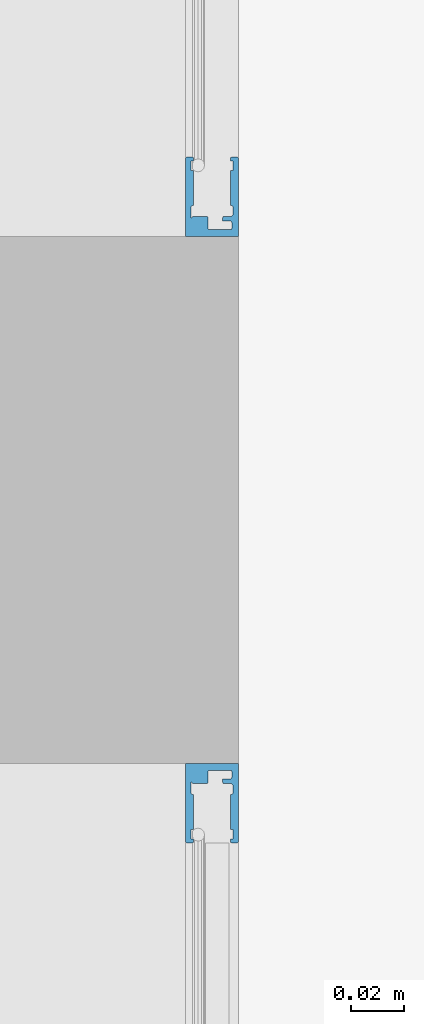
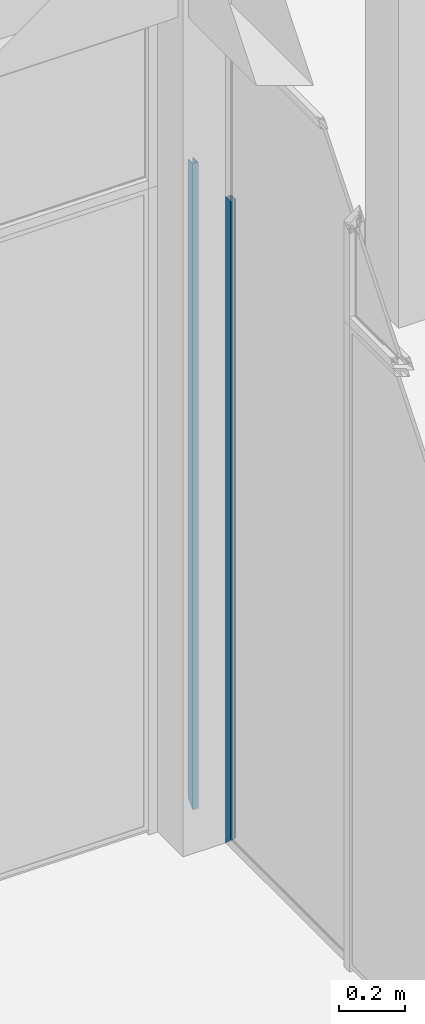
# One storey, part 92 of 387: 2 building element parts, 4 elements without a shape of their own.
"""IFC2X3 building model written with IfcOpenShell, lengths in millimetres."""

import ifcopenshell
import ifcopenshell.guid

model = None  # the IFC model being written
_history = None  # IfcOwnerHistory: only IFC2X3 demands one
_inside = {}  # id of a spatial element -> (the spatial element, [elements in it])
_under = {}  # id of a project, library or spatial element -> (it, [spatial elements below it])
_declared = {}  # id of a project -> (the project, [libraries it declares])
_typed = {}  # id of a type object -> (the type object, [elements of that type])
_made_of = {}  # id of a material, layer set ... -> (it, [elements and type objects made of it])


def new_model(schema):
    """Start an empty IFC model of exactly this schema.

    Asked for "IFC4X3", IfcOpenShell would pick the latest addendum, in which some entities
    have other attributes; the version numbers below select the first issue.
    IFC2X3 requires an IfcOwnerHistory on every rooted entity: one is made here for all.
    """
    global model, _history
    if schema == "IFC4X3":
        model = ifcopenshell.file(schema_version=(4, 3, 0, 0))
    else:
        model = ifcopenshell.file(schema=schema)
    _inside.clear()
    _under.clear()
    _declared.clear()
    _typed.clear()
    _made_of.clear()
    _history = None
    if model.schema == "IFC2X3":
        org = make("IfcOrganization", Name="unknown")
        user = make(
            "IfcPersonAndOrganization",
            ThePerson=make("IfcPerson", FamilyName="unknown"),
            TheOrganization=org,
        )
        app = make(
            "IfcApplication",
            ApplicationDeveloper=org,
            Version="unknown",
            ApplicationFullName="unknown",
            ApplicationIdentifier="unknown",
        )
        _history = make(
            "IfcOwnerHistory",
            OwningUser=user,
            OwningApplication=app,
            ChangeAction="ADDED",
            CreationDate=0,
        )
    return model


def make(cls, **values):
    """One entity of the class cls with the attributes given. An attribute that is None is left unset."""
    return model.create_entity(
        cls, **{name: value for name, value in values.items() if value is not None}
    )


def entity(cls, *values):
    """Any entity or typed value of the class cls, its attributes in the order of the schema. None: left unset."""
    e = model.create_entity(cls)
    for i, value in enumerate(values):
        if value is not None:
            e[i] = value
    return e


def rooted(cls, **values):
    """An entity with a GlobalId (a new one), such as an element, a storey or a relation."""
    return make(cls, GlobalId=ifcopenshell.guid.new(), OwnerHistory=_history, **values)


def si_unit(unit_type, name, prefix=None):
    """IfcSIUnit, for example si_unit("LENGTHUNIT", "METRE", prefix="MILLI")."""
    return make("IfcSIUnit", UnitType=unit_type, Prefix=prefix, Name=name)


def converted_unit(unit_type, name, factor, base, dimensions=None, offset=None):
    """IfcConversionBasedUnit, such as the inch: factor (a typed value) times the base unit."""
    return make(
        "IfcConversionBasedUnit"
        if offset is None
        else "IfcConversionBasedUnitWithOffset",
        ConversionOffset=offset,
        Dimensions=None
        if dimensions is None
        else entity("IfcDimensionalExponents", *dimensions),
        UnitType=unit_type,
        Name=name,
        ConversionFactor=make(
            "IfcMeasureWithUnit", ValueComponent=factor, UnitComponent=base
        ),
    )


def derived_unit(unit_type, elements):
    """IfcDerivedUnit: a product of units, each with its exponent."""
    return make(
        "IfcDerivedUnit",
        Elements=[
            make("IfcDerivedUnitElement", Unit=unit, Exponent=power)
            for unit, power in elements
        ],
        UnitType=unit_type,
    )


def money_unit(currency):
    """IfcMonetaryUnit."""
    return make("IfcMonetaryUnit", Currency=currency)


def assignment(units):
    """IfcUnitAssignment: the units of a project."""
    return None if units is None else make("IfcUnitAssignment", Units=units)


def point(xyz):
    """IfcCartesianPoint."""
    return None if xyz is None else make("IfcCartesianPoint", Coordinates=xyz)


def direction(xyz):
    """IfcDirection."""
    return None if xyz is None else make("IfcDirection", DirectionRatios=xyz)


def frame(location, z_axis=None, x_axis=None):
    """IfcAxis2Placement3D, a coordinate frame: its origin and axes. An axis left out is left unset."""
    return make(
        "IfcAxis2Placement3D",
        Location=point(location),
        Axis=direction(z_axis),
        RefDirection=direction(x_axis),
    )


def origin_with_axes():
    """The frame at (0, 0, 0) with the z axis (0, 0, 1) and the x axis (1, 0, 0) written out."""
    return frame((0.0, 0.0, 0.0), z_axis=(0.0, 0.0, 1.0), x_axis=(1.0, 0.0, 0.0))


def place(relative_to, where):
    """IfcLocalPlacement: puts the frame where relative to a parent placement (None: the world)."""
    return make(
        "IfcLocalPlacement", PlacementRelTo=relative_to, RelativePlacement=where
    )


def context(
    kind, dimensions, precision=None, world=None, true_north=None, identifier=None
):
    """IfcGeometricRepresentationContext, for example the 3D "Model" context."""
    return make(
        "IfcGeometricRepresentationContext",
        ContextIdentifier=identifier,
        ContextType=kind,
        CoordinateSpaceDimension=dimensions,
        Precision=precision,
        WorldCoordinateSystem=world,
        TrueNorth=true_north,
    )


def subcontext(parent, identifier, kind, view, scale=None):
    """IfcGeometricRepresentationSubContext, for example "Body" below "Model"."""
    return make(
        "IfcGeometricRepresentationSubContext",
        ContextIdentifier=identifier,
        ContextType=kind,
        ParentContext=parent,
        TargetScale=scale,
        TargetView=view,
    )


def project(units=None, contexts=None):
    """IfcProject with its units and contexts."""
    return rooted(
        "IfcProject",
        Name="project",
        RepresentationContexts=contexts,
        UnitsInContext=assignment(units),
    )


def spatial(cls, under=None, at=None, **own):
    """A site, building, storey or space (cls), placed at a placement, below another one or the project."""
    s = rooted(cls, ObjectPlacement=at, **own)
    if under is not None:
        _under.setdefault(under.id(), (under, []))[1].append(s)
    return s


def faces_of(points, faces, orient=None, outer=None):
    """IfcFace entities. A face is a list of loops; a loop is a list of indices into points, from 0.

    orient and outer hold one flag for each loop. By default every Orientation is true, the
    first loop of a face is its IfcFaceOuterBound and the others are IfcFaceBound.
    """
    made = []
    for i, loops in enumerate(faces):
        bounds = []
        for j, loop in enumerate(loops):
            is_outer = j == 0 if outer is None else outer[i][j]
            bounds.append(
                make(
                    "IfcFaceOuterBound" if is_outer else "IfcFaceBound",
                    Bound=make("IfcPolyLoop", Polygon=[points[k] for k in loop]),
                    Orientation=True if orient is None else orient[i][j],
                )
            )
        made.append(make("IfcFace", Bounds=bounds))
    return made


def faceted_brep(points, faces, orient=None, outer=None, voids=None):
    """IfcFacetedBrep: a solid bounded by flat faces; with voids (closed shells), ...WithVoids."""
    shared = [point(p) for p in points]
    hull = make("IfcClosedShell", CfsFaces=faces_of(shared, faces, orient, outer))
    if voids is None:
        return make("IfcFacetedBrep", Outer=hull)
    return make(
        "IfcFacetedBrepWithVoids",
        Outer=hull,
        Voids=[
            make(cls, CfsFaces=faces_of(shared, fs, o, b)) for cls, fs, o, b in voids
        ],
    )


def shape(context_of_items, identifier, shape_type, items):
    """IfcShapeRepresentation: the items that make up one representation, for example the "Body"."""
    return make(
        "IfcShapeRepresentation",
        ContextOfItems=context_of_items,
        RepresentationIdentifier=identifier,
        RepresentationType=shape_type,
        Items=items,
    )


def source(mapping_origin, context_of_items, identifier, shape_type, items):
    """IfcRepresentationMap: a shape defined once, which mapped items show again and again."""
    return make(
        "IfcRepresentationMap",
        MappingOrigin=mapping_origin,
        MappedRepresentation=shape(context_of_items, identifier, shape_type, items),
    )


def transform(
    local_origin,
    x_axis=None,
    y_axis=None,
    z_axis=None,
    scale=None,
    scale2=None,
    scale3=None,
    uniform=True,
):
    """IfcCartesianTransformationOperator3D, or its non-uniform kind. x_axis, y_axis, z_axis: its Axis1, 2, 3."""
    if uniform:
        return make(
            "IfcCartesianTransformationOperator3D",
            Axis1=direction(x_axis),
            Axis2=direction(y_axis),
            LocalOrigin=point(local_origin),
            Scale=scale,
            Axis3=direction(z_axis),
        )
    return make(
        "IfcCartesianTransformationOperator3DnonUniform",
        Axis1=direction(x_axis),
        Axis2=direction(y_axis),
        LocalOrigin=point(local_origin),
        Scale=scale,
        Axis3=direction(z_axis),
        Scale2=scale2,
        Scale3=scale3,
    )


def mapped(mapping_source, mapping_target):
    """IfcMappedItem: shows the shape of a source again, moved by a transform."""
    return make(
        "IfcMappedItem", MappingSource=mapping_source, MappingTarget=mapping_target
    )


def material(Name=None, Category=None):
    """IfcMaterial."""
    return make("IfcMaterial", Name=Name, Category=Category)


def made_of(thing, what):
    """Note that an element or type object is made of a material, layer set ...; save() writes the relation."""
    if what is not None:
        _made_of.setdefault(what.id(), (what, []))[1].append(thing)
    return thing


def type_object(cls, material=None, **own):
    """A type object (cls), such as IfcWallType, which elements share."""
    return made_of(rooted(cls, **own), material)


def element(
    cls,
    number,
    at=None,
    inside=None,
    cuts=None,
    type_object=None,
    material=None,
    context=None,
    identifier="Body",
    shape_type=None,
    held_by="IfcProductDefinitionShape",
    body=None,
    shapes=None,
    **own,
):
    """One element of the class cls, such as IfcWall. Its Tag is "e" and its number.

    at: its placement. inside: the storey or other place that contains it. cuts: it is an
    opening in that element (IfcRelVoidsElement). A single representation is given by context,
    identifier, shape_type and body (its items); several are given by shapes. held_by: the class
    of the entity that holds the representations. save() writes the other relations.
    """
    e = rooted(cls, Tag="e%d" % number, ObjectPlacement=at, **own)
    if body is not None:
        shapes = [shape(context, identifier, shape_type, body)]
    if shapes is not None:
        e.Representation = make(held_by, Representations=shapes)
    if inside is not None:
        _inside.setdefault(inside.id(), (inside, []))[1].append(e)
    if cuts is not None:
        rooted(
            "IfcRelVoidsElement", RelatingBuildingElement=cuts, RelatedOpeningElement=e
        )
    if type_object is not None:
        _typed.setdefault(type_object.id(), (type_object, []))[1].append(e)
    return made_of(e, material)


def aggregate(whole, parts):
    """IfcRelAggregates: a whole, such as a stair, and the parts it consists of."""
    return rooted("IfcRelAggregates", RelatingObject=whole, RelatedObjects=parts)


def save(model, path):
    """Write the relations noted so far, then the file.

    IfcRelAggregates (storeys below a building ...), IfcRelContainedInSpatialStructure (elements
    in a storey), IfcRelDefinesByType, IfcRelAssociatesMaterial and IfcRelDeclares: one each for
    every whole, place, type object, material and project.
    """
    for whole, parts in _under.values():
        aggregate(whole, parts)
    for where, things in _inside.values():
        rooted(
            "IfcRelContainedInSpatialStructure",
            RelatedElements=things,
            RelatingStructure=where,
        )
    for kind, things in _typed.values():
        rooted("IfcRelDefinesByType", RelatedObjects=things, RelatingType=kind)
    for what, things in _made_of.values():
        rooted("IfcRelAssociatesMaterial", RelatedObjects=things, RelatingMaterial=what)
    for by, libraries in _declared.values():
        rooted("IfcRelDeclares", RelatingContext=by, RelatedDefinitions=libraries)
    model.write(path)


model = new_model("IFC2X3")

# Units and contexts
model_context = context("Model", 3, precision=0.01, world=origin_with_axes(), true_north=direction((0.0, 1.0)))
body_context = subcontext(model_context, "Body", "Model", "MODEL_VIEW")
ifc_project = project(units=[si_unit("LENGTHUNIT", "METRE", prefix="MILLI"), si_unit("AREAUNIT", "SQUARE_METRE"), si_unit("VOLUMEUNIT", "CUBIC_METRE"), converted_unit("PLANEANGLEUNIT", "DEGREE", entity("IfcPlaneAngleMeasure", 0.0174532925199), si_unit("PLANEANGLEUNIT", "RADIAN"), dimensions=[0, 0, 0, 0, 0, 0, 0]), si_unit("SOLIDANGLEUNIT", "STERADIAN"), money_unit("EUR"), converted_unit("TIMEUNIT", "Year", entity("IfcTimeMeasure", 31556926.0), si_unit("TIMEUNIT", "SECOND"), dimensions=[0, 0, 1, 0, 0, 0, 0]), si_unit("MASSUNIT", "GRAM", prefix="KILO"), si_unit("THERMODYNAMICTEMPERATUREUNIT", "DEGREE_CELSIUS"), si_unit("LUMINOUSINTENSITYUNIT", "LUMEN"), si_unit("ENERGYUNIT", "JOULE", prefix="MEGA"), derived_unit("THERMALCONDUCTANCEUNIT", [(si_unit("POWERUNIT", "WATT"), 1), (si_unit("LENGTHUNIT", "METRE"), -1), (si_unit("THERMODYNAMICTEMPERATUREUNIT", "KELVIN"), -1)]), derived_unit("SPECIFICHEATCAPACITYUNIT", [(si_unit("ENERGYUNIT", "JOULE"), 1), (si_unit("MASSUNIT", "GRAM", prefix="KILO"), -1), (si_unit("THERMODYNAMICTEMPERATUREUNIT", "KELVIN"), -1)]), derived_unit("MASSDENSITYUNIT", [(si_unit("MASSUNIT", "GRAM", prefix="KILO"), 1), (si_unit("VOLUMEUNIT", "CUBIC_METRE"), -1)])], contexts=[model_context])

# Site, building, storey
site_placement = place(None, origin_with_axes())
site = spatial("IfcSite", under=ifc_project, at=site_placement, Name="Puškini 31, Narva", CompositionType="ELEMENT")
building_placement = place(site_placement, origin_with_axes())
building = spatial("IfcBuilding", under=site, at=building_placement, Name="Narva Riigigümnaasium", CompositionType="ELEMENT")
storey_placement = place(building_placement, frame((0.0, 0.0, 2640.0), z_axis=(0.0, 0.0, 1.0), x_axis=(1.0, 0.0, 0.0)))
storey = spatial("IfcBuildingStorey", under=building, at=storey_placement, Name="2.korrus +2.64", CompositionType="ELEMENT", Elevation=2640.0)

# Curtain wall, member, building element part
curtain_wall_type = type_object("IfcCurtainWallType", Name="Curtain Wall Type", PredefinedType="NOTDEFINED")
curtain_wall_1_placement = place(storey_placement, frame((28390.0000001, 183059.973479, -0.000112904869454), z_axis=(0.0, 0.0, 1.0), x_axis=(1.0, 0.0, 0.0)))
curtain_wall_1 = element("IfcCurtainWall", 1, at=curtain_wall_1_placement, inside=storey, type_object=curtain_wall_type, Name="G-SKLF-19")
member_type = type_object("IfcMemberType", Name="30 x 10", PredefinedType="MULLION")
member_1_placement = place(curtain_wall_1_placement, frame((0.0, -1360.00012964, 0.0), z_axis=(0.0, 3.91155906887e-08, 1.0), x_axis=(0.0, 1.0, -3.91155906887e-08)))
member_1 = element("IfcMember", 2, at=member_1_placement, type_object=member_type, Name="G-SKLF-54-raam", ObjectType="MULLION")
aggregate(curtain_wall_1, [member_1])
ifc_material = material(Name="ET-04_Alumiinium")
shared_shape_1 = source(origin_with_axes(), body_context, "Body", "Brep", [
    faceted_brep([(0.0, -9.99999999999, 0.0), (0.0, -9.99999999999, 2400.00000922), (0.0, 9.99999999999, 2400.00000922), (0.0, 9.99999999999, 0.0), (29.4424074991, -9.99999999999, 29.4424074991), (29.4424074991, -9.99999999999, 2400.00000922), (29.7157683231, -9.95182408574, 2400.00000922), (29.9224245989, -9.76651288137, 2400.00000922), (30.0, -9.5, 2400.00000922), (30.0, -7.49999999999, 2400.00000922), (29.9330127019, -7.24999999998, 2400.00000922), (29.75, -7.06698729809, 2400.00000922), (29.5, -6.99999999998, 2400.00000922), (28.7, -6.99999999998, 2400.00000922), (28.6, -7.02679491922, 2400.00000922), (28.5267949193, -7.09999999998, 2400.00000922), (28.5, -7.19999999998, 2400.00000922), (28.5, -7.79999999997, 2400.00000922), (28.4732050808, -7.89999999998, 2400.00000922), (28.4, -7.97320508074, 2400.00000922), (28.3, -7.99999999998, 2400.00000922), (25.2, -7.99999999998, 2400.00000922), (25.1, -7.97320508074, 2400.00000922), (25.0267949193, -7.89999999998, 2400.00000922), (25.0, -7.79999999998, 2400.00000922), (25.0, -7.20000000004, 2400.00000922), (24.9732050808, -7.10000000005, 2400.00000922), (24.9, -7.02679491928, 2400.00000922), (24.8, -7.00000000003, 2400.00000922), (11.7527616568, -6.99999999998, 2400.00000922), (11.6187870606, -7.49999999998, 2400.00000922), (11.2527616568, -7.86602540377, 2400.00000922), (10.7527616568, -7.99999999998, 2400.00000922), (8.49999999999, -8.00000000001, 2400.00000922), (7.99999999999, -7.86602540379, 2400.00000922), (7.63397459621, -7.50000000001, 2400.00000922), (7.49999999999, -7.00000000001, 2400.00000922), (7.49999999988, -4.5336921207, 2400.00000922), (7.43301270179, -4.28369212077, 2400.00000922), (7.24999999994, -4.10067941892, 2400.00000922), (7.0, -4.03369212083, 2400.00000922), (5.74723834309, -4.03369212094, 2400.00000922), (5.7472383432, -6.99999999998, 2400.00000922), (5.6802510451, -7.24999999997, 2400.00000922), (5.49723834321, -7.43301270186, 2400.00000922), (5.24723834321, -7.49999999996, 2400.00000922), (3.0, -7.49999999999, 2400.00000922), (2.75, -7.43301270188, 2400.00000922), (2.56698729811, -7.24999999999, 2400.00000922), (2.5, -6.99999999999, 2400.00000922), (2.5, 1.00339466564, 2400.00000922), (2.56811176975, 1.25195735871, 2400.00000922), (2.75096907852, 1.43357737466, 2400.00000922), (2.99998847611, 1.50000000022, 2400.00000922), (6.99999999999, 1.50000000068, 2400.00000922), (7.24999999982, 1.56698729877, 2400.00000922), (7.43301270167, 1.75000000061, 2400.00000922), (7.49999999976, 2.00000000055, 2400.00000922), (7.49999999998, 6.99999999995, 2400.00000922), (7.36602540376, 7.49999999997, 2400.00000922), (6.99999999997, 7.86602540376, 2400.00000922), (6.49999999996, 7.99999999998, 2400.00000922), (10.7527616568, 7.99999999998, 2400.00000922), (11.2527616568, 7.86602540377, 2400.00000922), (11.6187870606, 7.49999999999, 2400.00000922), (11.7527616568, 6.99999999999, 2400.00000922), (24.8, 7.00000000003, 2400.00000922), (24.9, 7.02679491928, 2400.00000922), (24.9732050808, 7.10000000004, 2400.00000922), (25.0, 7.20000000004, 2400.00000922), (25.0, 7.8, 2400.00000922), (25.0267949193, 7.90000000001, 2400.00000922), (25.1, 7.97320508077, 2400.00000922), (25.2, 8.00000000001, 2400.00000922), (28.3, 8.00000000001, 2400.00000922), (28.4104265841, 7.9658128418, 2400.00000922), (28.4849473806, 7.87744178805, 2400.00000922), (28.5, 7.76282847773, 2400.00000922), (28.5, 7.24760028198, 2400.00000922), (28.5, 7.19999999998, 2400.00000922), (28.5267949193, 7.09999999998, 2400.00000922), (28.6, 7.02679491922, 2400.00000922), (28.7, 6.99999999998, 2400.00000922), (28.7609519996, 6.99999999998, 2400.00000922), (29.5, 7.00000000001, 2400.00000922), (29.75, 7.06698729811, 2400.00000922), (29.9330127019, 7.24999999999, 2400.00000922), (30.0, 7.49999999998, 2400.00000922), (30.0, 9.5, 2400.00000922), (29.9330127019, 9.75000000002, 2400.00000922), (29.75, 9.93301270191, 2400.00000922), (29.5, 10.0, 2400.00000922), (29.5, 10.0, 29.5), (29.75, 9.93301270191, 29.75), (29.9330127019, 9.75000000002, 29.9330127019), (30.0, 9.5, 30.0), (30.0, 7.49999999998, 30.0), (29.9330127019, 7.24999999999, 29.9330127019), (29.75, 7.06698729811, 29.75), (29.5, 7.00000000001, 29.5), (28.7609519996, 6.99999999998, 28.7609519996), (28.7, 6.99999999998, 28.7), (28.6, 7.02679491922, 28.6), (28.5267949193, 7.09999999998, 28.5267949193), (28.5, 7.19999999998, 28.5), (28.5, 7.24760028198, 28.5), (28.5, 7.76282847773, 28.5), (28.4849473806, 7.87744178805, 28.4849473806), (28.4104265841, 7.9658128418, 28.4104265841), (28.3, 8.00000000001, 28.3), (25.2, 8.00000000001, 25.2), (25.1, 7.97320508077, 25.1), (25.0267949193, 7.90000000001, 25.0267949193), (25.0, 7.8, 25.0), (25.0, 7.20000000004, 25.0), (24.9732050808, 7.10000000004, 24.9732050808), (24.9, 7.02679491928, 24.9), (24.8, 7.00000000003, 24.8), (11.7527616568, 6.99999999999, 11.7527616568), (11.6187870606, 7.49999999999, 11.6187870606), (11.2527616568, 7.86602540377, 11.2527616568), (10.7527616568, 7.99999999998, 10.7527616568), (6.49999999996, 7.99999999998, 6.49999999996), (6.99999999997, 7.86602540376, 6.99999999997), (7.36602540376, 7.49999999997, 7.36602540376), (7.49999999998, 6.99999999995, 7.49999999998), (7.49999999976, 2.00000000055, 7.49999999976), (7.43301270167, 1.75000000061, 7.43301270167), (7.24999999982, 1.56698729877, 7.24999999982), (6.99999999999, 1.50000000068, 6.99999999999), (2.99998847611, 1.50000000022, 2.99998847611), (2.75096907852, 1.43357737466, 2.75096907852), (2.56811176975, 1.25195735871, 2.56811176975), (2.5, 1.00339466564, 2.5), (2.5, -6.99999999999, 2.5), (2.56698729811, -7.24999999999, 2.56698729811), (2.75, -7.43301270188, 2.75), (3.0, -7.49999999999, 3.0), (5.24723834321, -7.49999999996, 5.24723834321), (5.49723834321, -7.43301270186, 5.49723834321), (5.6802510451, -7.24999999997, 5.6802510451), (5.7472383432, -6.99999999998, 5.7472383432), (5.74723834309, -4.03369212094, 5.74723834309), (7.0, -4.03369212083, 7.0), (7.24999999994, -4.10067941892, 7.24999999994), (7.43301270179, -4.28369212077, 7.43301270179), (7.49999999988, -4.5336921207, 7.49999999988), (7.49999999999, -7.00000000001, 7.49999999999), (7.63397459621, -7.50000000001, 7.63397459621), (7.99999999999, -7.86602540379, 7.99999999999), (8.49999999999, -8.00000000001, 8.49999999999), (10.7527616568, -7.99999999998, 10.7527616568), (11.2527616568, -7.86602540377, 11.2527616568), (11.6187870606, -7.49999999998, 11.6187870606), (11.7527616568, -6.99999999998, 11.7527616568), (24.8, -7.00000000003, 24.8), (24.9, -7.02679491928, 24.9), (24.9732050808, -7.10000000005, 24.9732050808), (25.0, -7.20000000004, 25.0), (25.0, -7.79999999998, 25.0), (25.0267949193, -7.89999999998, 25.0267949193), (25.1, -7.97320508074, 25.1), (25.2, -7.99999999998, 25.2), (28.3, -7.99999999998, 28.3), (28.4, -7.97320508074, 28.4), (28.4732050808, -7.89999999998, 28.4732050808), (28.5, -7.79999999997, 28.5), (28.5, -7.19999999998, 28.5), (28.5267949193, -7.09999999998, 28.5267949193), (28.6, -7.02679491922, 28.6), (28.7, -6.99999999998, 28.7), (29.5, -6.99999999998, 29.5), (29.75, -7.06698729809, 29.75), (29.9330127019, -7.24999999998, 29.9330127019), (30.0, -7.49999999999, 30.0), (30.0, -9.5, 30.0), (29.9224245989, -9.76651288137, 29.9224245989), (29.7157683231, -9.95182408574, 29.7157683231)], [[[0, 1, 2, 3]], [[4, 5, 1, 0]], [[2, 1, 5, 6, 7, 8, 9, 10, 11, 12, 13, 14, 15, 16, 17, 18, 19, 20, 21, 22, 23, 24, 25, 26, 27, 28, 29, 30, 31, 32, 33, 34, 35, 36, 37, 38, 39, 40, 41, 42, 43, 44, 45, 46, 47, 48, 49, 50, 51, 52, 53, 54, 55, 56, 57, 58, 59, 60, 61, 62, 63, 64, 65, 66, 67, 68, 69, 70, 71, 72, 73, 74, 75, 76, 77, 78, 79, 80, 81, 82, 83, 84, 85, 86, 87, 88, 89, 90, 91]], [[3, 2, 91, 92]], [[3, 92, 93, 94, 95, 96, 97, 98, 99, 100, 101, 102, 103, 104, 105, 106, 107, 108, 109, 110, 111, 112, 113, 114, 115, 116, 117, 118, 119, 120, 121, 122, 123, 124, 125, 126, 127, 128, 129, 130, 131, 132, 133, 134, 135, 136, 137, 138, 139, 140, 141, 142, 143, 144, 145, 146, 147, 148, 149, 150, 151, 152, 153, 154, 155, 156, 157, 158, 159, 160, 161, 162, 163, 164, 165, 166, 167, 168, 169, 170, 171, 172, 173, 174, 175, 176, 177, 4, 0]], [[177, 6, 5, 4]], [[176, 7, 6, 177]], [[175, 8, 7, 176]], [[174, 9, 8, 175]], [[173, 10, 9, 174]], [[172, 11, 10, 173]], [[171, 12, 11, 172]], [[170, 13, 12, 171]], [[169, 14, 13, 170]], [[168, 15, 14, 169]], [[167, 16, 15, 168]], [[166, 17, 16, 167]], [[165, 18, 17, 166]], [[164, 19, 18, 165]], [[163, 20, 19, 164]], [[162, 21, 20, 163]], [[161, 22, 21, 162]], [[160, 23, 22, 161]], [[159, 24, 23, 160]], [[158, 25, 24, 159]], [[157, 26, 25, 158]], [[156, 27, 26, 157]], [[155, 28, 27, 156]], [[154, 29, 28, 155]], [[153, 30, 29, 154]], [[152, 31, 30, 153]], [[151, 32, 31, 152]], [[150, 33, 32, 151]], [[149, 34, 33, 150]], [[148, 35, 34, 149]], [[147, 36, 35, 148]], [[146, 37, 36, 147]], [[145, 38, 37, 146]], [[144, 39, 38, 145]], [[143, 40, 39, 144]], [[142, 41, 40, 143]], [[141, 42, 41, 142]], [[140, 43, 42, 141]], [[139, 44, 43, 140]], [[138, 45, 44, 139]], [[137, 46, 45, 138]], [[136, 47, 46, 137]], [[135, 48, 47, 136]], [[134, 49, 48, 135]], [[133, 50, 49, 134]], [[132, 51, 50, 133]], [[131, 52, 51, 132]], [[130, 53, 52, 131]], [[129, 54, 53, 130]], [[128, 55, 54, 129]], [[127, 56, 55, 128]], [[126, 57, 56, 127]], [[125, 58, 57, 126]], [[124, 59, 58, 125]], [[123, 60, 59, 124]], [[122, 61, 60, 123]], [[121, 62, 61, 122]], [[120, 63, 62, 121]], [[119, 64, 63, 120]], [[118, 65, 64, 119]], [[117, 66, 65, 118]], [[116, 67, 66, 117]], [[115, 68, 67, 116]], [[114, 69, 68, 115]], [[113, 70, 69, 114]], [[112, 71, 70, 113]], [[111, 72, 71, 112]], [[110, 73, 72, 111]], [[109, 74, 73, 110]], [[108, 75, 74, 109]], [[107, 76, 75, 108]], [[106, 77, 76, 107]], [[105, 78, 77, 106]], [[104, 79, 78, 105]], [[103, 80, 79, 104]], [[102, 81, 80, 103]], [[101, 82, 81, 102]], [[100, 83, 82, 101]], [[99, 84, 83, 100]], [[98, 85, 84, 99]], [[97, 86, 85, 98]], [[96, 87, 86, 97]], [[95, 88, 87, 96]], [[94, 89, 88, 95]], [[93, 90, 89, 94]], [[92, 91, 90, 93]]]),
])
building_element_part_1_placement = place(member_1_placement, origin_with_axes())
building_element_part_1 = element("IfcBuildingElementPart", 3, at=building_element_part_1_placement, material=ifc_material, Name="ET-04_Alumiinium", context=body_context, shape_type="MappedRepresentation", body=[
    mapped(shared_shape_1, transform((0.0, 0.0, 0.0))),
])
aggregate(member_1, [building_element_part_1])

curtain_wall_2_placement = place(storey_placement, frame((28390.0000001, 180299.973357, -0.00013048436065), z_axis=(0.0, 0.0, 1.0), x_axis=(1.0, 0.0, 0.0)))
curtain_wall_2 = element("IfcCurtainWall", 4, at=curtain_wall_2_placement, inside=storey, type_object=curtain_wall_type, Name="G-SKLF-17")
member_2_placement = place(curtain_wall_2_placement, frame((0.0, 1200.0, 0.0), z_axis=(0.0, 0.0, 1.0), x_axis=(0.0, 1.0, 0.0)))
member_2 = element("IfcMember", 5, at=member_2_placement, type_object=member_type, Name="G-SKLF-65-raam", ObjectType="MULLION")
aggregate(curtain_wall_2, [member_2])
shared_shape_2 = source(origin_with_axes(), body_context, "Body", "Brep", [
    faceted_brep([(0.0, -9.99999999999, 0.0), (0.0, 9.99999999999, 0.0), (0.0, 9.99999999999, 2400.00001337), (0.0, -9.99999999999, 2400.00001337), (-29.4424074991, -9.99999999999, 29.4424074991), (-29.7157683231, -9.95182408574, 29.7157683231), (-29.9224245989, -9.76651288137, 29.9224245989), (-30.0, -9.5, 30.0), (-30.0, -7.49999999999, 30.0), (-29.9330127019, -7.24999999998, 29.9330127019), (-29.75, -7.06698729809, 29.75), (-29.5, -6.99999999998, 29.5), (-28.7, -6.99999999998, 28.7), (-28.6, -7.02679491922, 28.6), (-28.5267949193, -7.09999999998, 28.5267949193), (-28.5, -7.19999999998, 28.5), (-28.5, -7.79999999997, 28.5), (-28.4732050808, -7.89999999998, 28.4732050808), (-28.4, -7.97320508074, 28.4), (-28.3, -7.99999999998, 28.3), (-25.2, -7.99999999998, 25.2), (-25.1, -7.97320508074, 25.1), (-25.0267949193, -7.89999999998, 25.0267949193), (-25.0, -7.79999999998, 25.0), (-25.0, -7.20000000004, 25.0), (-24.9732050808, -7.10000000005, 24.9732050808), (-24.9, -7.02679491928, 24.9), (-24.8, -7.00000000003, 24.8), (-11.7527616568, -6.99999999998, 11.7527616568), (-11.6187870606, -7.49999999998, 11.6187870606), (-11.2527616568, -7.86602540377, 11.2527616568), (-10.7527616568, -7.99999999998, 10.7527616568), (-8.49999999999, -8.00000000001, 8.49999999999), (-7.99999999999, -7.86602540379, 7.99999999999), (-7.63397459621, -7.50000000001, 7.63397459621), (-7.49999999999, -7.00000000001, 7.49999999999), (-7.49999999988, -4.5336921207, 7.49999999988), (-7.43301270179, -4.28369212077, 7.43301270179), (-7.24999999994, -4.10067941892, 7.24999999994), (-7.0, -4.03369212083, 7.0), (-5.74723834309, -4.03369212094, 5.74723834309), (-5.7472383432, -6.99999999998, 5.7472383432), (-5.6802510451, -7.24999999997, 5.6802510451), (-5.49723834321, -7.43301270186, 5.49723834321), (-5.24723834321, -7.49999999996, 5.24723834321), (-3.0, -7.49999999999, 3.0), (-2.75, -7.43301270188, 2.75), (-2.56698729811, -7.24999999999, 2.56698729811), (-2.5, -6.99999999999, 2.5), (-2.5, 1.00339466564, 2.5), (-2.56811176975, 1.25195735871, 2.56811176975), (-2.75096907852, 1.43357737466, 2.75096907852), (-2.99998847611, 1.50000000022, 2.99998847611), (-6.99999999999, 1.50000000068, 6.99999999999), (-7.24999999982, 1.56698729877, 7.24999999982), (-7.43301270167, 1.75000000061, 7.43301270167), (-7.49999999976, 2.00000000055, 7.49999999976), (-7.49999999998, 6.99999999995, 7.49999999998), (-7.36602540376, 7.49999999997, 7.36602540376), (-6.99999999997, 7.86602540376, 6.99999999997), (-6.49999999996, 7.99999999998, 6.49999999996), (-10.7527616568, 7.99999999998, 10.7527616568), (-11.2527616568, 7.86602540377, 11.2527616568), (-11.6187870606, 7.49999999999, 11.6187870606), (-11.7527616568, 6.99999999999, 11.7527616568), (-24.8, 7.00000000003, 24.8), (-24.9, 7.02679491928, 24.9), (-24.9732050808, 7.10000000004, 24.9732050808), (-25.0, 7.20000000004, 25.0), (-25.0, 7.8, 25.0), (-25.0267949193, 7.90000000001, 25.0267949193), (-25.1, 7.97320508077, 25.1), (-25.2, 8.00000000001, 25.2), (-28.3, 8.00000000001, 28.3), (-28.4104265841, 7.9658128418, 28.4104265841), (-28.4849473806, 7.87744178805, 28.4849473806), (-28.5, 7.76282847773, 28.5), (-28.5, 7.24760028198, 28.5), (-28.5, 7.19999999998, 28.5), (-28.5267949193, 7.09999999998, 28.5267949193), (-28.6, 7.02679491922, 28.6), (-28.7, 6.99999999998, 28.7), (-28.7609519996, 6.99999999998, 28.7609519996), (-29.5, 7.00000000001, 29.5), (-29.75, 7.06698729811, 29.75), (-29.9330127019, 7.24999999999, 29.9330127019), (-30.0, 7.49999999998, 30.0), (-30.0, 9.5, 30.0), (-29.9330127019, 9.75000000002, 29.9330127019), (-29.75, 9.93301270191, 29.75), (-29.5, 10.0, 29.5), (-29.5, 10.0, 2400.00001337), (-29.75, 9.93301270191, 2400.00001337), (-29.9330127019, 9.75000000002, 2400.00001337), (-30.0, 9.5, 2400.00001337), (-30.0, 7.49999999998, 2400.00001337), (-29.9330127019, 7.24999999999, 2400.00001337), (-29.75, 7.06698729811, 2400.00001337), (-29.5, 7.00000000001, 2400.00001337), (-28.7609519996, 6.99999999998, 2400.00001337), (-28.7, 6.99999999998, 2400.00001337), (-28.6, 7.02679491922, 2400.00001337), (-28.5267949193, 7.09999999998, 2400.00001337), (-28.5, 7.19999999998, 2400.00001337), (-28.5, 7.24760028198, 2400.00001337), (-28.5, 7.76282847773, 2400.00001337), (-28.4849473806, 7.87744178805, 2400.00001337), (-28.4104265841, 7.9658128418, 2400.00001337), (-28.3, 8.00000000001, 2400.00001337), (-25.2, 8.00000000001, 2400.00001337), (-25.1, 7.97320508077, 2400.00001337), (-25.0267949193, 7.90000000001, 2400.00001337), (-25.0, 7.8, 2400.00001337), (-25.0, 7.20000000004, 2400.00001337), (-24.9732050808, 7.10000000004, 2400.00001337), (-24.9, 7.02679491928, 2400.00001337), (-24.8, 7.00000000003, 2400.00001337), (-11.7527616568, 6.99999999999, 2400.00001337), (-11.6187870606, 7.49999999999, 2400.00001337), (-11.2527616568, 7.86602540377, 2400.00001337), (-10.7527616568, 7.99999999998, 2400.00001337), (-6.49999999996, 7.99999999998, 2400.00001337), (-6.99999999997, 7.86602540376, 2400.00001337), (-7.36602540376, 7.49999999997, 2400.00001337), (-7.49999999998, 6.99999999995, 2400.00001337), (-7.49999999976, 2.00000000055, 2400.00001337), (-7.43301270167, 1.75000000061, 2400.00001337), (-7.24999999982, 1.56698729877, 2400.00001337), (-6.99999999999, 1.50000000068, 2400.00001337), (-2.99998847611, 1.50000000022, 2400.00001337), (-2.75096907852, 1.43357737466, 2400.00001337), (-2.56811176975, 1.25195735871, 2400.00001337), (-2.5, 1.00339466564, 2400.00001337), (-2.5, -6.99999999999, 2400.00001337), (-2.56698729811, -7.24999999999, 2400.00001337), (-2.75, -7.43301270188, 2400.00001337), (-3.0, -7.49999999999, 2400.00001337), (-5.24723834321, -7.49999999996, 2400.00001337), (-5.49723834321, -7.43301270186, 2400.00001337), (-5.6802510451, -7.24999999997, 2400.00001337), (-5.7472383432, -6.99999999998, 2400.00001337), (-5.74723834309, -4.03369212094, 2400.00001337), (-7.0, -4.03369212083, 2400.00001337), (-7.24999999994, -4.10067941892, 2400.00001337), (-7.43301270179, -4.28369212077, 2400.00001337), (-7.49999999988, -4.5336921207, 2400.00001337), (-7.49999999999, -7.00000000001, 2400.00001337), (-7.63397459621, -7.50000000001, 2400.00001337), (-7.99999999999, -7.86602540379, 2400.00001337), (-8.49999999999, -8.00000000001, 2400.00001337), (-10.7527616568, -7.99999999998, 2400.00001337), (-11.2527616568, -7.86602540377, 2400.00001337), (-11.6187870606, -7.49999999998, 2400.00001337), (-11.7527616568, -6.99999999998, 2400.00001337), (-24.8, -7.00000000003, 2400.00001337), (-24.9, -7.02679491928, 2400.00001337), (-24.9732050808, -7.10000000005, 2400.00001337), (-25.0, -7.20000000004, 2400.00001337), (-25.0, -7.79999999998, 2400.00001337), (-25.0267949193, -7.89999999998, 2400.00001337), (-25.1, -7.97320508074, 2400.00001337), (-25.2, -7.99999999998, 2400.00001337), (-28.3, -7.99999999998, 2400.00001337), (-28.4, -7.97320508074, 2400.00001337), (-28.4732050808, -7.89999999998, 2400.00001337), (-28.5, -7.79999999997, 2400.00001337), (-28.5, -7.19999999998, 2400.00001337), (-28.5267949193, -7.09999999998, 2400.00001337), (-28.6, -7.02679491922, 2400.00001337), (-28.7, -6.99999999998, 2400.00001337), (-29.5, -6.99999999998, 2400.00001337), (-29.75, -7.06698729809, 2400.00001337), (-29.9330127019, -7.24999999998, 2400.00001337), (-30.0, -7.49999999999, 2400.00001337), (-30.0, -9.5, 2400.00001337), (-29.9224245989, -9.76651288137, 2400.00001337), (-29.7157683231, -9.95182408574, 2400.00001337), (-29.4424074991, -9.99999999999, 2400.00001337)], [[[0, 1, 2, 3]], [[1, 0, 4, 5, 6, 7, 8, 9, 10, 11, 12, 13, 14, 15, 16, 17, 18, 19, 20, 21, 22, 23, 24, 25, 26, 27, 28, 29, 30, 31, 32, 33, 34, 35, 36, 37, 38, 39, 40, 41, 42, 43, 44, 45, 46, 47, 48, 49, 50, 51, 52, 53, 54, 55, 56, 57, 58, 59, 60, 61, 62, 63, 64, 65, 66, 67, 68, 69, 70, 71, 72, 73, 74, 75, 76, 77, 78, 79, 80, 81, 82, 83, 84, 85, 86, 87, 88, 89, 90]], [[1, 90, 91, 2]], [[2, 91, 92, 93, 94, 95, 96, 97, 98, 99, 100, 101, 102, 103, 104, 105, 106, 107, 108, 109, 110, 111, 112, 113, 114, 115, 116, 117, 118, 119, 120, 121, 122, 123, 124, 125, 126, 127, 128, 129, 130, 131, 132, 133, 134, 135, 136, 137, 138, 139, 140, 141, 142, 143, 144, 145, 146, 147, 148, 149, 150, 151, 152, 153, 154, 155, 156, 157, 158, 159, 160, 161, 162, 163, 164, 165, 166, 167, 168, 169, 170, 171, 172, 173, 174, 175, 176, 177, 3]], [[4, 0, 3, 177]], [[5, 4, 177, 176]], [[6, 5, 176, 175]], [[7, 6, 175, 174]], [[8, 7, 174, 173]], [[9, 8, 173, 172]], [[10, 9, 172, 171]], [[11, 10, 171, 170]], [[12, 11, 170, 169]], [[13, 12, 169, 168]], [[14, 13, 168, 167]], [[15, 14, 167, 166]], [[16, 15, 166, 165]], [[17, 16, 165, 164]], [[18, 17, 164, 163]], [[19, 18, 163, 162]], [[20, 19, 162, 161]], [[21, 20, 161, 160]], [[22, 21, 160, 159]], [[23, 22, 159, 158]], [[24, 23, 158, 157]], [[25, 24, 157, 156]], [[26, 25, 156, 155]], [[27, 26, 155, 154]], [[28, 27, 154, 153]], [[29, 28, 153, 152]], [[30, 29, 152, 151]], [[31, 30, 151, 150]], [[32, 31, 150, 149]], [[33, 32, 149, 148]], [[34, 33, 148, 147]], [[35, 34, 147, 146]], [[36, 35, 146, 145]], [[37, 36, 145, 144]], [[38, 37, 144, 143]], [[39, 38, 143, 142]], [[40, 39, 142, 141]], [[41, 40, 141, 140]], [[42, 41, 140, 139]], [[43, 42, 139, 138]], [[44, 43, 138, 137]], [[45, 44, 137, 136]], [[46, 45, 136, 135]], [[47, 46, 135, 134]], [[48, 47, 134, 133]], [[49, 48, 133, 132]], [[50, 49, 132, 131]], [[51, 50, 131, 130]], [[52, 51, 130, 129]], [[53, 52, 129, 128]], [[54, 53, 128, 127]], [[55, 54, 127, 126]], [[56, 55, 126, 125]], [[57, 56, 125, 124]], [[58, 57, 124, 123]], [[59, 58, 123, 122]], [[60, 59, 122, 121]], [[61, 60, 121, 120]], [[62, 61, 120, 119]], [[63, 62, 119, 118]], [[64, 63, 118, 117]], [[65, 64, 117, 116]], [[66, 65, 116, 115]], [[67, 66, 115, 114]], [[68, 67, 114, 113]], [[69, 68, 113, 112]], [[70, 69, 112, 111]], [[71, 70, 111, 110]], [[72, 71, 110, 109]], [[73, 72, 109, 108]], [[74, 73, 108, 107]], [[75, 74, 107, 106]], [[76, 75, 106, 105]], [[77, 76, 105, 104]], [[78, 77, 104, 103]], [[79, 78, 103, 102]], [[80, 79, 102, 101]], [[81, 80, 101, 100]], [[82, 81, 100, 99]], [[83, 82, 99, 98]], [[84, 83, 98, 97]], [[85, 84, 97, 96]], [[86, 85, 96, 95]], [[87, 86, 95, 94]], [[88, 87, 94, 93]], [[89, 88, 93, 92]], [[90, 89, 92, 91]]]),
])
building_element_part_2_placement = place(member_2_placement, origin_with_axes())
building_element_part_2 = element("IfcBuildingElementPart", 6, at=building_element_part_2_placement, material=ifc_material, Name="ET-04_Alumiinium", context=body_context, shape_type="MappedRepresentation", body=[
    mapped(shared_shape_2, transform((0.0, 0.0, 0.0))),
])
aggregate(member_2, [building_element_part_2])

save(model, "model.ifc")
